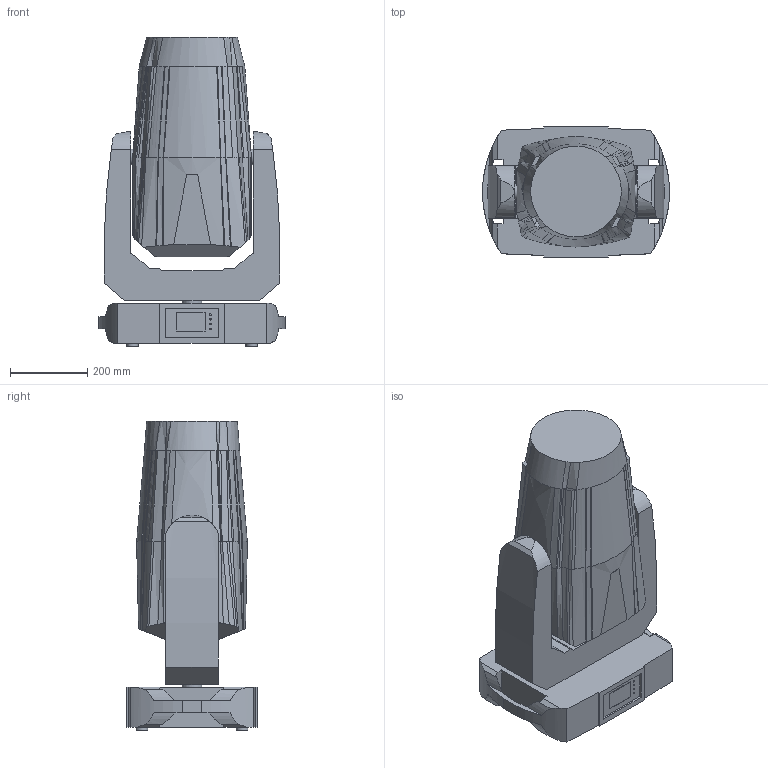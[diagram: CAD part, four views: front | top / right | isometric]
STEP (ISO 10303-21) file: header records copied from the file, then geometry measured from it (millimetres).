
FILE_DESCRIPTION(/* description */ ('Unknown'),/* implementation_level */ '2;1');
FILE_NAME(/* name */ '3D_T2_GDTF',/* time_stamp */ '2020-10-02T09:50:26+02:00',/* author */ ('Ing.Rostislav HĂˇba'),/* organization */ ('ROBE lighting'),/* preprocessor_version */ 'ST-DEVELOPER v16.7',/* originating_system */ 'Solid Edge',/* authorisation */ 'Unknown');
FILE_SCHEMA (('AUTOMOTIVE_DESIGN {1 0 10303 214 3 1 1}'));
Length unit declared in the file: millimetre
Products named in the file (4): 3D_T2_GDTF; BMFL_base; Arm Forte; Head T2
Assembly tree (3 placements, depth 2):
  3D_T2_GDTF
    BMFL_base
    Arm Forte
    Head T2
Bounding box: 482.55 x 339.31 x 803.93 mm (x, y, z)
Volume: 62418045.2 mm3; surface area: 1614271 mm2
Topology: 3 solids, 3 shells, 273 faces, 674 edges, 433 vertices
Faces by surface type: plane 117, bspline 103, cylinder 53
Full cylindrical faces by diameter (mm): 4.153 x4, 10 x10, 20.926 x6, 30 x4, 32 x1, 40.237 x2, 50 x1, 51 x1
Entity records: 8627 total; most frequent: CARTESIAN_POINT 2699, ORIENTED_EDGE 1286, DIRECTION 975, EDGE_CURVE 643, VERTEX_POINT 431, AXIS2_PLACEMENT_3D 341, EDGE_LOOP 334, FACE_BOUND 334
